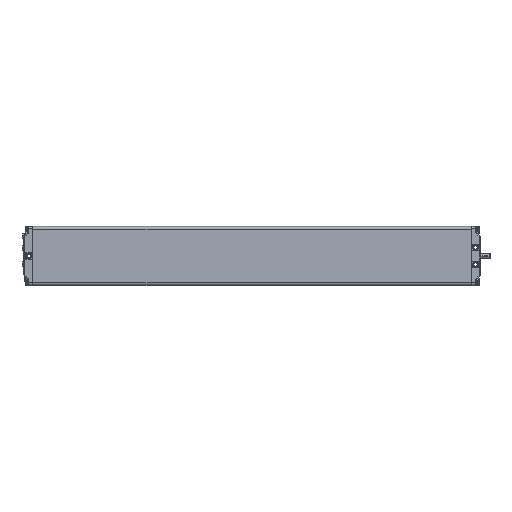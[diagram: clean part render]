
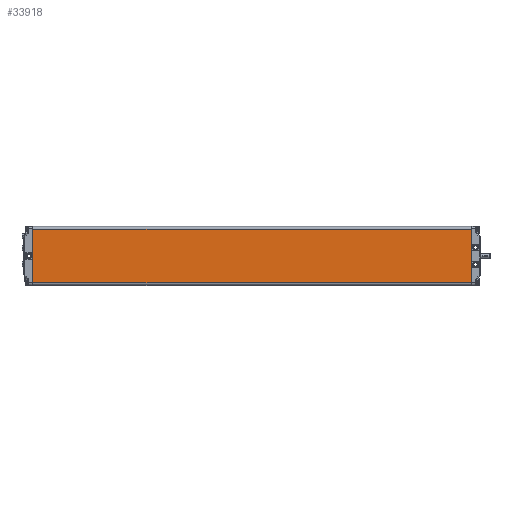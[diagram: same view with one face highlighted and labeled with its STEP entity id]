
A CAD part, top view. The second image highlights one B-rep face of the part: STEP entity #33918.
In plain terms, the highlighted planar face has unit normal (0, 0, 1).
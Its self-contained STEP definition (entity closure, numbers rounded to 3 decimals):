
#3531=LINE('',#72337,#4816);
#3532=LINE('',#72340,#4817);
#3533=LINE('',#72342,#4818);
#3534=LINE('',#72344,#4819);
#4816=VECTOR('',#41177,1000.);
#4817=VECTOR('',#41178,1000.);
#4818=VECTOR('',#41179,1000.);
#4819=VECTOR('',#41180,1000.);
#10128=ORIENTED_EDGE('',*,*,#16199,.T.);
#10129=ORIENTED_EDGE('',*,*,#16200,.T.);
#10130=ORIENTED_EDGE('',*,*,#16201,.T.);
#10131=ORIENTED_EDGE('',*,*,#16202,.T.);
#16199=EDGE_CURVE('',#19463,#19464,#3531,.F.);
#16200=EDGE_CURVE('',#19464,#19465,#3532,.T.);
#16201=EDGE_CURVE('',#19465,#19466,#3533,.T.);
#16202=EDGE_CURVE('',#19466,#19463,#3534,.F.);
#19463=VERTEX_POINT('',#72338);
#19464=VERTEX_POINT('',#72339);
#19465=VERTEX_POINT('',#72341);
#19466=VERTEX_POINT('',#72343);
#22967=EDGE_LOOP('',(#10128,#10129,#10130,#10131));
#24959=FACE_BOUND('',#22967,.T.);
#26096=PLANE('',#36194);
#33918=ADVANCED_FACE('',(#24959),#26096,.T.);
#36194=AXIS2_PLACEMENT_3D('',#72336,#41175,#41176);
#41175=DIRECTION('',(0.,0.,1.));
#41176=DIRECTION('',(1.,0.,0.));
#41177=DIRECTION('',(0.,-1.,0.));
#41178=DIRECTION('',(-1.,0.,0.));
#41179=DIRECTION('',(0.,-1.,0.));
#41180=DIRECTION('',(-1.,0.,0.));
#72336=CARTESIAN_POINT('',(60.,893.5,30.));
#72337=CARTESIAN_POINT('',(54.,893.5,30.));
#72338=CARTESIAN_POINT('',(54.,0.5,30.));
#72339=CARTESIAN_POINT('',(54.,893.,30.));
#72340=CARTESIAN_POINT('',(60.,893.,30.));
#72341=CARTESIAN_POINT('',(-54.,893.,30.));
#72342=CARTESIAN_POINT('',(-54.,893.5,30.));
#72343=CARTESIAN_POINT('',(-54.,0.5,30.));
#72344=CARTESIAN_POINT('',(54.,0.5,30.));
